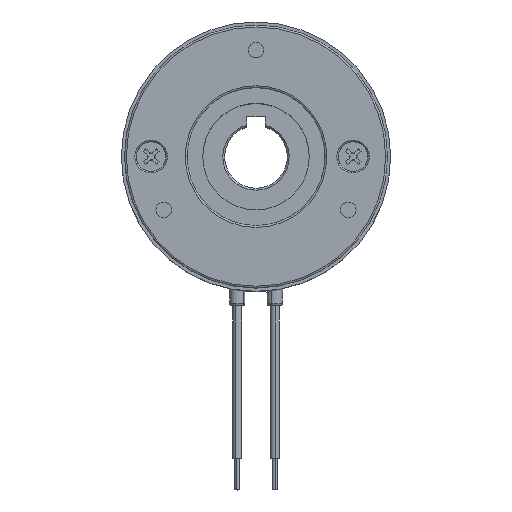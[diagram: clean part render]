
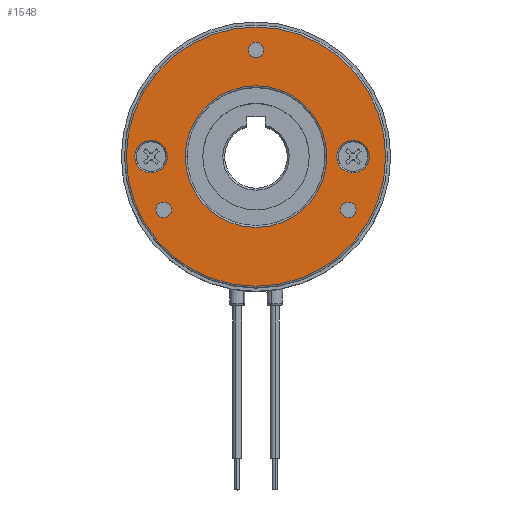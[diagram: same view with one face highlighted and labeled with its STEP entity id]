
A CAD part, top view. The second image highlights one B-rep face of the part: STEP entity #1548.
In plain terms, the highlighted planar face has unit normal (0, 0, 1).
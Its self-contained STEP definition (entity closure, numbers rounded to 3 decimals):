
#114 = EDGE_CURVE ( 'NONE', #4588, #5941, #6981, .T. ) ;
#133 = CARTESIAN_POINT ( 'NONE',  ( -14.722, -8.5, 0. ) ) ;
#190 = DIRECTION ( 'NONE',  ( 0., 0., -1. ) ) ;
#257 = DIRECTION ( 'NONE',  ( 0., 0., 1. ) ) ;
#396 = EDGE_CURVE ( 'NONE', #6214, #3184, #2289, .T. ) ;
#410 = AXIS2_PLACEMENT_3D ( 'NONE', #2267, #7368, #6116 ) ;
#448 = VERTEX_POINT ( 'NONE', #1675 ) ;
#483 = DIRECTION ( 'NONE',  ( 0., 0., 1. ) ) ;
#505 = CIRCLE ( 'NONE', #2636, 2.6 ) ;
#574 = AXIS2_PLACEMENT_3D ( 'NONE', #6733, #3556, #4145 ) ;
#617 = FACE_BOUND ( 'NONE', #2420, .T. ) ;
#787 = DIRECTION ( 'NONE',  ( 0., 0., 1. ) ) ;
#828 = EDGE_CURVE ( 'NONE', #3593, #6520, #968, .T. ) ;
#829 = CARTESIAN_POINT ( 'NONE',  ( -20.7, 0., 0. ) ) ;
#864 = CARTESIAN_POINT ( 'NONE',  ( -13.472, -8.5, 0. ) ) ;
#968 = CIRCLE ( 'NONE', #3780, 2.6 ) ;
#1013 = EDGE_CURVE ( 'NONE', #2504, #2392, #4516, .T. ) ;
#1249 = VERTEX_POINT ( 'NONE', #864 ) ;
#1313 = ORIENTED_EDGE ( 'NONE', *, *, #2279, .F. ) ;
#1326 = DIRECTION ( 'NONE',  ( -1., 0., 0. ) ) ;
#1365 = FACE_BOUND ( 'NONE', #4520, .T. ) ;
#1548 = ADVANCED_FACE ( 'NONE', ( #8239, #6336, #1869, #3187, #1365, #617, #5081 ), #5750, .F. ) ;
#1599 = EDGE_LOOP ( 'NONE', ( #3716, #1658 ) ) ;
#1658 = ORIENTED_EDGE ( 'NONE', *, *, #2355, .F. ) ;
#1675 = CARTESIAN_POINT ( 'NONE',  ( -1.25, 17., 0. ) ) ;
#1757 = CARTESIAN_POINT ( 'NONE',  ( 20.7, 0., 0. ) ) ;
#1775 = DIRECTION ( 'NONE',  ( 1., 0., 0. ) ) ;
#1869 = FACE_BOUND ( 'NONE', #3416, .T. ) ;
#1963 = CARTESIAN_POINT ( 'NONE',  ( -11.3, 0., 0. ) ) ;
#1983 = DIRECTION ( 'NONE',  ( 0., 0., -1. ) ) ;
#2069 = ORIENTED_EDGE ( 'NONE', *, *, #114, .T. ) ;
#2084 = ORIENTED_EDGE ( 'NONE', *, *, #2500, .F. ) ;
#2103 = VERTEX_POINT ( 'NONE', #7187 ) ;
#2165 = DIRECTION ( 'NONE',  ( 1., 0., 0. ) ) ;
#2232 = DIRECTION ( 'NONE',  ( 1., 0., 0. ) ) ;
#2245 = EDGE_CURVE ( 'NONE', #3038, #448, #6633, .T. ) ;
#2267 = CARTESIAN_POINT ( 'NONE',  ( -14.722, -8.5, 0. ) ) ;
#2279 = EDGE_CURVE ( 'NONE', #2392, #2504, #7305, .T. ) ;
#2289 = CIRCLE ( 'NONE', #4026, 20.7 ) ;
#2324 = CIRCLE ( 'NONE', #3385, 2.6 ) ;
#2340 = ORIENTED_EDGE ( 'NONE', *, *, #7784, .T. ) ;
#2355 = EDGE_CURVE ( 'NONE', #448, #3038, #4596, .T. ) ;
#2392 = VERTEX_POINT ( 'NONE', #4275 ) ;
#2420 = EDGE_LOOP ( 'NONE', ( #3454, #2753 ) ) ;
#2500 = EDGE_CURVE ( 'NONE', #2103, #4396, #2324, .T. ) ;
#2504 = VERTEX_POINT ( 'NONE', #3692 ) ;
#2517 = AXIS2_PLACEMENT_3D ( 'NONE', #5132, #787, #6344 ) ;
#2520 = CARTESIAN_POINT ( 'NONE',  ( -16.75, 0., 0. ) ) ;
#2636 = AXIS2_PLACEMENT_3D ( 'NONE', #3307, #257, #6489 ) ;
#2685 = AXIS2_PLACEMENT_3D ( 'NONE', #6890, #5520, #6228 ) ;
#2716 = DIRECTION ( 'NONE',  ( 0., 0., 1. ) ) ;
#2732 = DIRECTION ( 'NONE',  ( -1., 0., 0. ) ) ;
#2753 = ORIENTED_EDGE ( 'NONE', *, *, #4105, .F. ) ;
#2775 = CARTESIAN_POINT ( 'NONE',  ( 0., 17., 0. ) ) ;
#2950 = CARTESIAN_POINT ( 'NONE',  ( 11.3, 0., 0. ) ) ;
#2953 = DIRECTION ( 'NONE',  ( 0., 0., 1. ) ) ;
#3013 = DIRECTION ( 'NONE',  ( -1., 0., 0. ) ) ;
#3038 = VERTEX_POINT ( 'NONE', #6672 ) ;
#3132 = AXIS2_PLACEMENT_3D ( 'NONE', #7035, #1983, #1326 ) ;
#3146 = DIRECTION ( 'NONE',  ( 0., 0., 1. ) ) ;
#3184 = VERTEX_POINT ( 'NONE', #1757 ) ;
#3187 = FACE_BOUND ( 'NONE', #5460, .T. ) ;
#3307 = CARTESIAN_POINT ( 'NONE',  ( 15.5, 0., 0. ) ) ;
#3385 = AXIS2_PLACEMENT_3D ( 'NONE', #8233, #3146, #1775 ) ;
#3416 = EDGE_LOOP ( 'NONE', ( #2084, #4996 ) ) ;
#3454 = ORIENTED_EDGE ( 'NONE', *, *, #8094, .F. ) ;
#3556 = DIRECTION ( 'NONE',  ( 0., 0., 1. ) ) ;
#3593 = VERTEX_POINT ( 'NONE', #4204 ) ;
#3603 = CARTESIAN_POINT ( 'NONE',  ( 14.722, -8.5, 0. ) ) ;
#3692 = CARTESIAN_POINT ( 'NONE',  ( 13.472, -8.5, 0. ) ) ;
#3713 = AXIS2_PLACEMENT_3D ( 'NONE', #3603, #7843, #4625 ) ;
#3716 = ORIENTED_EDGE ( 'NONE', *, *, #2245, .F. ) ;
#3717 = CARTESIAN_POINT ( 'NONE',  ( 12.9, 0., 0. ) ) ;
#3780 = AXIS2_PLACEMENT_3D ( 'NONE', #7895, #2953, #2165 ) ;
#3855 = DIRECTION ( 'NONE',  ( 1., 0., 0. ) ) ;
#4026 = AXIS2_PLACEMENT_3D ( 'NONE', #4280, #483, #3013 ) ;
#4105 = EDGE_CURVE ( 'NONE', #5992, #1249, #6666, .T. ) ;
#4145 = DIRECTION ( 'NONE',  ( -1., 0., 0. ) ) ;
#4158 = CIRCLE ( 'NONE', #574, 20.7 ) ;
#4204 = CARTESIAN_POINT ( 'NONE',  ( 18.1, 0., 0. ) ) ;
#4275 = CARTESIAN_POINT ( 'NONE',  ( 15.972, -8.5, 0. ) ) ;
#4280 = CARTESIAN_POINT ( 'NONE',  ( 0., 0., 0. ) ) ;
#4392 = EDGE_CURVE ( 'NONE', #5941, #4588, #7093, .T. ) ;
#4396 = VERTEX_POINT ( 'NONE', #8083 ) ;
#4453 = EDGE_LOOP ( 'NONE', ( #7400, #2340 ) ) ;
#4516 = CIRCLE ( 'NONE', #2517, 1.25 ) ;
#4520 = EDGE_LOOP ( 'NONE', ( #1313, #4608 ) ) ;
#4588 = VERTEX_POINT ( 'NONE', #1963 ) ;
#4596 = CIRCLE ( 'NONE', #6198, 1.25 ) ;
#4608 = ORIENTED_EDGE ( 'NONE', *, *, #1013, .F. ) ;
#4625 = DIRECTION ( 'NONE',  ( 1., 0., 0. ) ) ;
#4905 = ORIENTED_EDGE ( 'NONE', *, *, #828, .F. ) ;
#4924 = CARTESIAN_POINT ( 'NONE',  ( -15.972, -8.5, 0. ) ) ;
#4996 = ORIENTED_EDGE ( 'NONE', *, *, #5196, .F. ) ;
#5081 = FACE_BOUND ( 'NONE', #1599, .T. ) ;
#5132 = CARTESIAN_POINT ( 'NONE',  ( 14.722, -8.5, 0. ) ) ;
#5196 = EDGE_CURVE ( 'NONE', #4396, #2103, #6946, .T. ) ;
#5243 = CARTESIAN_POINT ( 'NONE',  ( 0., 0., 0. ) ) ;
#5448 = DIRECTION ( 'NONE',  ( 0., 0., 1. ) ) ;
#5460 = EDGE_LOOP ( 'NONE', ( #4905, #8255 ) ) ;
#5513 = AXIS2_PLACEMENT_3D ( 'NONE', #5243, #190, #2732 ) ;
#5520 = DIRECTION ( 'NONE',  ( 0., 0., -1. ) ) ;
#5536 = DIRECTION ( 'NONE',  ( 1., 0., 0. ) ) ;
#5750 = PLANE ( 'NONE',  #3132 ) ;
#5941 = VERTEX_POINT ( 'NONE', #2950 ) ;
#5992 = VERTEX_POINT ( 'NONE', #4924 ) ;
#6113 = DIRECTION ( 'NONE',  ( 1., 0., 0. ) ) ;
#6116 = DIRECTION ( 'NONE',  ( 1., 0., 0. ) ) ;
#6198 = AXIS2_PLACEMENT_3D ( 'NONE', #2775, #5448, #6113 ) ;
#6214 = VERTEX_POINT ( 'NONE', #829 ) ;
#6228 = DIRECTION ( 'NONE',  ( -1., 0., 0. ) ) ;
#6248 = AXIS2_PLACEMENT_3D ( 'NONE', #6775, #8003, #5536 ) ;
#6336 = FACE_OUTER_BOUND ( 'NONE', #4453, .T. ) ;
#6344 = DIRECTION ( 'NONE',  ( 1., 0., 0. ) ) ;
#6395 = ORIENTED_EDGE ( 'NONE', *, *, #4392, .T. ) ;
#6489 = DIRECTION ( 'NONE',  ( 1., 0., 0. ) ) ;
#6520 = VERTEX_POINT ( 'NONE', #3717 ) ;
#6606 = EDGE_CURVE ( 'NONE', #6520, #3593, #505, .T. ) ;
#6633 = CIRCLE ( 'NONE', #6248, 1.25 ) ;
#6666 = CIRCLE ( 'NONE', #410, 1.25 ) ;
#6672 = CARTESIAN_POINT ( 'NONE',  ( 1.25, 17., 0. ) ) ;
#6733 = CARTESIAN_POINT ( 'NONE',  ( 0., 0., 0. ) ) ;
#6743 = DIRECTION ( 'NONE',  ( 0., 0., 1. ) ) ;
#6775 = CARTESIAN_POINT ( 'NONE',  ( 0., 17., 0. ) ) ;
#6818 = AXIS2_PLACEMENT_3D ( 'NONE', #133, #2716, #3855 ) ;
#6890 = CARTESIAN_POINT ( 'NONE',  ( 0., 0., 0. ) ) ;
#6946 = CIRCLE ( 'NONE', #7478, 2.6 ) ;
#6981 = CIRCLE ( 'NONE', #5513, 11.3 ) ;
#7035 = CARTESIAN_POINT ( 'NONE',  ( 0., 11., 0. ) ) ;
#7093 = CIRCLE ( 'NONE', #2685, 11.3 ) ;
#7187 = CARTESIAN_POINT ( 'NONE',  ( -14.15, 0., 0. ) ) ;
#7305 = CIRCLE ( 'NONE', #3713, 1.25 ) ;
#7346 = EDGE_LOOP ( 'NONE', ( #2069, #6395 ) ) ;
#7368 = DIRECTION ( 'NONE',  ( 0., 0., 1. ) ) ;
#7400 = ORIENTED_EDGE ( 'NONE', *, *, #396, .T. ) ;
#7478 = AXIS2_PLACEMENT_3D ( 'NONE', #2520, #6743, #2232 ) ;
#7632 = CIRCLE ( 'NONE', #6818, 1.25 ) ;
#7784 = EDGE_CURVE ( 'NONE', #3184, #6214, #4158, .T. ) ;
#7843 = DIRECTION ( 'NONE',  ( 0., 0., 1. ) ) ;
#7895 = CARTESIAN_POINT ( 'NONE',  ( 15.5, 0., 0. ) ) ;
#8003 = DIRECTION ( 'NONE',  ( 0., 0., 1. ) ) ;
#8083 = CARTESIAN_POINT ( 'NONE',  ( -19.35, 0., 0. ) ) ;
#8094 = EDGE_CURVE ( 'NONE', #1249, #5992, #7632, .T. ) ;
#8233 = CARTESIAN_POINT ( 'NONE',  ( -16.75, 0., 0. ) ) ;
#8239 = FACE_BOUND ( 'NONE', #7346, .T. ) ;
#8255 = ORIENTED_EDGE ( 'NONE', *, *, #6606, .F. ) ;
